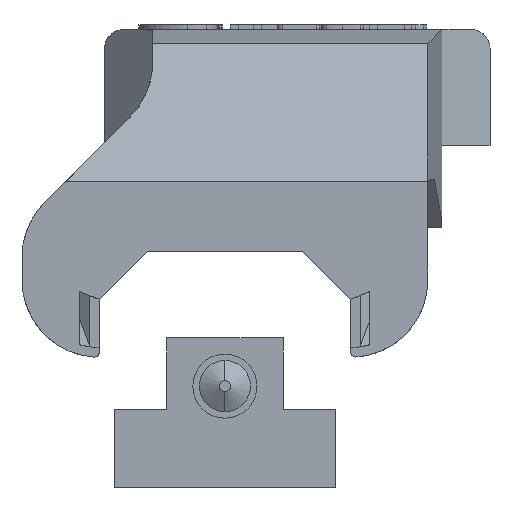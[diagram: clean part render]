
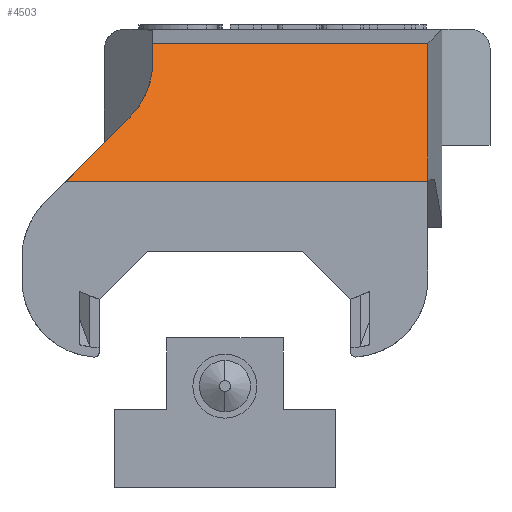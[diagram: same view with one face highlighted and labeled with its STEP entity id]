
A CAD part, front view. The second image highlights one B-rep face of the part: STEP entity #4503.
In plain terms, the highlighted planar face has unit normal (0, -0.819, 0.574).
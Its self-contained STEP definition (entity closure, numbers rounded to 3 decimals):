
#36 = LINE ( 'NONE', #8400, #12006 ) ;
#41 = CARTESIAN_POINT ( 'NONE',  ( -34.55, -21.4, 14.55 ) ) ;
#57 = CARTESIAN_POINT ( 'NONE',  ( 7.55, -40.97, -13.399 ) ) ;
#715 = VERTEX_POINT ( 'NONE', #2551 ) ;
#1107 = CARTESIAN_POINT ( 'NONE',  ( -21.823, -25.687, 8.427 ) ) ;
#1175 = CARTESIAN_POINT ( 'NONE',  ( -21., -24.296, 10.414 ) ) ;
#1472 = VECTOR ( 'NONE', #13047, 1000. ) ;
#1767 = LINE ( 'NONE', #4742, #7059 ) ;
#2001 = EDGE_CURVE ( 'NONE', #4599, #13061, #11177, .T. ) ;
#2004 = DIRECTION ( 'NONE',  ( 0., -0.574, -0.819 ) ) ;
#2419 =( BOUNDED_CURVE ( )  B_SPLINE_CURVE ( 3, ( #11413, #1107, #1175, #7116 ),
 .UNSPECIFIED., .F., .T. ) 
 B_SPLINE_CURVE_WITH_KNOTS ( ( 4, 4 ),
 ( 3.927, 4.712 ),
 .UNSPECIFIED. ) 
 CURVE ( )  GEOMETRIC_REPRESENTATION_ITEM ( )  RATIONAL_B_SPLINE_CURVE ( ( 1., 0.949, 0.949, 1. ) ) 
 REPRESENTATION_ITEM ( '' )  );
#2458 = LINE ( 'NONE', #5587, #1472 ) ;
#2551 = CARTESIAN_POINT ( 'NONE',  ( -23.343, -26.752, 6.907 ) ) ;
#2990 = ORIENTED_EDGE ( 'NONE', *, *, #9570, .F. ) ;
#3022 = ORIENTED_EDGE ( 'NONE', *, *, #6046, .T. ) ;
#3170 = CARTESIAN_POINT ( 'NONE',  ( 7.55, -31.4, 0.269 ) ) ;
#3463 = VECTOR ( 'NONE', #2004, 1000. ) ;
#4147 = DIRECTION ( 'NONE',  ( 1., 0., 0. ) ) ;
#4377 = ORIENTED_EDGE ( 'NONE', *, *, #5301, .F. ) ;
#4503 = ADVANCED_FACE ( 'NONE', ( #8713 ), #7500, .F. ) ;
#4534 = DIRECTION ( 'NONE',  ( 0., 0.574, 0.819 ) ) ;
#4599 = VERTEX_POINT ( 'NONE', #5747 ) ;
#4742 = CARTESIAN_POINT ( 'NONE',  ( -33.266, -33.7, -3.016 ) ) ;
#5301 = EDGE_CURVE ( 'NONE', #11603, #7223, #2458, .T. ) ;
#5587 = CARTESIAN_POINT ( 'NONE',  ( -21., -21.196, 14.842 ) ) ;
#5664 = AXIS2_PLACEMENT_3D ( 'NONE', #12817, #11600, #4534 ) ;
#5747 = CARTESIAN_POINT ( 'NONE',  ( 7.55, -21.4, 14.55 ) ) ;
#6046 = EDGE_CURVE ( 'NONE', #715, #7534, #1767, .T. ) ;
#6830 = ORIENTED_EDGE ( 'NONE', *, *, #2001, .F. ) ;
#7059 = VECTOR ( 'NONE', #13020, 1000. ) ;
#7116 = CARTESIAN_POINT ( 'NONE',  ( -21., -22.791, 12.564 ) ) ;
#7223 = VERTEX_POINT ( 'NONE', #12202 ) ;
#7500 = PLANE ( 'NONE',  #5664 ) ;
#7534 = VERTEX_POINT ( 'NONE', #7964 ) ;
#7964 = CARTESIAN_POINT ( 'NONE',  ( -29.981, -31.4, 0.269 ) ) ;
#8273 = LINE ( 'NONE', #41, #8551 ) ;
#8400 = CARTESIAN_POINT ( 'NONE',  ( -34.55, -31.4, 0.269 ) ) ;
#8551 = VECTOR ( 'NONE', #4147, 1000. ) ;
#8713 = FACE_OUTER_BOUND ( 'NONE', #11261, .T. ) ;
#9119 = ORIENTED_EDGE ( 'NONE', *, *, #10893, .F. ) ;
#9339 = DIRECTION ( 'NONE',  ( 1., 0., 0. ) ) ;
#9570 = EDGE_CURVE ( 'NONE', #7223, #4599, #8273, .T. ) ;
#9968 = CARTESIAN_POINT ( 'NONE',  ( -21., -22.791, 12.564 ) ) ;
#10893 = EDGE_CURVE ( 'NONE', #715, #11603, #2419, .T. ) ;
#11177 = LINE ( 'NONE', #57, #3463 ) ;
#11261 = EDGE_LOOP ( 'NONE', ( #3022, #12582, #6830, #2990, #4377, #9119 ) ) ;
#11413 = CARTESIAN_POINT ( 'NONE',  ( -23.343, -26.752, 6.907 ) ) ;
#11600 = DIRECTION ( 'NONE',  ( 0., 0.819, -0.574 ) ) ;
#11603 = VERTEX_POINT ( 'NONE', #9968 ) ;
#12006 = VECTOR ( 'NONE', #9339, 1000. ) ;
#12032 = EDGE_CURVE ( 'NONE', #7534, #13061, #36, .T. ) ;
#12202 = CARTESIAN_POINT ( 'NONE',  ( -21., -21.4, 14.55 ) ) ;
#12582 = ORIENTED_EDGE ( 'NONE', *, *, #12032, .T. ) ;
#12817 = CARTESIAN_POINT ( 'NONE',  ( -34.55, -21.4, 14.55 ) ) ;
#13020 = DIRECTION ( 'NONE',  ( -0.634, -0.444, -0.634 ) ) ;
#13047 = DIRECTION ( 'NONE',  ( 0., 0.574, 0.819 ) ) ;
#13061 = VERTEX_POINT ( 'NONE', #3170 ) ;
